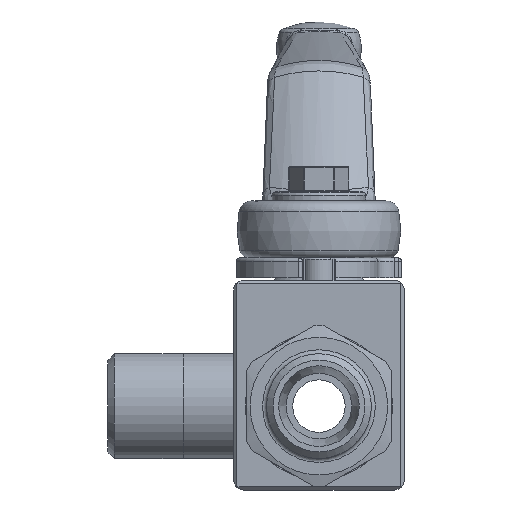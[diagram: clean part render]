
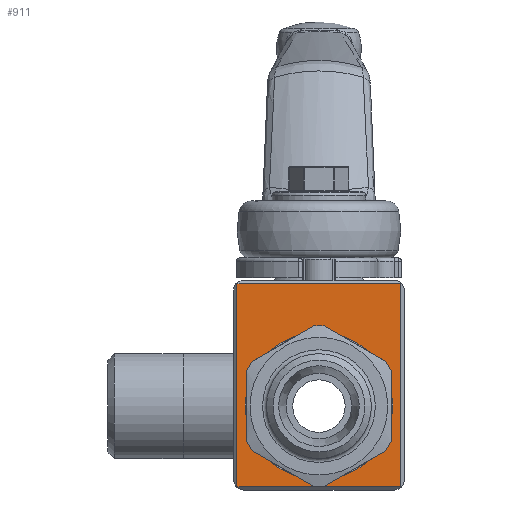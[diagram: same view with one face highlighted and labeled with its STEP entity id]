
A CAD part, front view. The second image highlights one B-rep face of the part: STEP entity #911.
In plain terms, the highlighted planar face has unit normal (0, -1, 0).
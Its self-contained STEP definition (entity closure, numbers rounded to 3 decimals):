
#911 = ADVANCED_FACE( '', ( #1953, #1954 ), #1955, .F. );
#1953 = FACE_BOUND( '', #3694, .T. );
#1954 = FACE_OUTER_BOUND( '', #3695, .T. );
#1955 = PLANE( '', #3696 );
#3694 = EDGE_LOOP( '', ( #6474 ) );
#3695 = EDGE_LOOP( '', ( #6475, #6476, #6477, #6478 ) );
#3696 = AXIS2_PLACEMENT_3D( '', #6479, #6480, #6481 );
#6474 = ORIENTED_EDGE( '', *, *, #9029, .T. );
#6475 = ORIENTED_EDGE( '', *, *, #9030, .T. );
#6476 = ORIENTED_EDGE( '', *, *, #9031, .T. );
#6477 = ORIENTED_EDGE( '', *, *, #8374, .T. );
#6478 = ORIENTED_EDGE( '', *, *, #9032, .T. );
#6479 = CARTESIAN_POINT( '', ( -13., -18.1, 19.2 ) );
#6480 = DIRECTION( '', ( 0., 1., 0. ) );
#6481 = DIRECTION( '', ( 0., 0., 1. ) );
#8374 = EDGE_CURVE( '', #9694, #9695, #9696, .T. );
#9029 = EDGE_CURVE( '', #10729, #10729, #10730, .T. );
#9030 = EDGE_CURVE( '', #10731, #10732, #10733, .T. );
#9031 = EDGE_CURVE( '', #10732, #9694, #10734, .T. );
#9032 = EDGE_CURVE( '', #9695, #10731, #10735, .T. );
#9694 = VERTEX_POINT( '', #11651 );
#9695 = VERTEX_POINT( '', #11652 );
#9696 = LINE( '', #11653, #11654 );
#10729 = VERTEX_POINT( '', #13598 );
#10730 = CIRCLE( '', #13599, 11.25 );
#10731 = VERTEX_POINT( '', #13600 );
#10732 = VERTEX_POINT( '', #13601 );
#10733 = LINE( '', #13602, #13603 );
#10734 = LINE( '', #13604, #13605 );
#10735 = LINE( '', #13606, #13607 );
#11651 = CARTESIAN_POINT( '', ( 12.5, -18.1, -12.3 ) );
#11652 = CARTESIAN_POINT( '', ( 12.5, -18.1, 18.7 ) );
#11653 = CARTESIAN_POINT( '', ( 12.5, -18.1, 19.2 ) );
#11654 = VECTOR( '', #14833, 1000. );
#13598 = CARTESIAN_POINT( '', ( 0., -18.1, -11.25 ) );
#13599 = AXIS2_PLACEMENT_3D( '', #15734, #15735, #15736 );
#13600 = CARTESIAN_POINT( '', ( -12.5, -18.1, 18.7 ) );
#13601 = CARTESIAN_POINT( '', ( -12.5, -18.1, -12.3 ) );
#13602 = CARTESIAN_POINT( '', ( -12.5, -18.1, 19.2 ) );
#13603 = VECTOR( '', #15737, 1000. );
#13604 = CARTESIAN_POINT( '', ( -13., -18.1, -12.3 ) );
#13605 = VECTOR( '', #15738, 1000. );
#13606 = CARTESIAN_POINT( '', ( -13., -18.1, 18.7 ) );
#13607 = VECTOR( '', #15739, 1000. );
#14833 = DIRECTION( '', ( 0., 0., 1. ) );
#15734 = CARTESIAN_POINT( '', ( 0., -18.1, 0. ) );
#15735 = DIRECTION( '', ( 0., 1., 0. ) );
#15736 = DIRECTION( '', ( 0., 0., -1. ) );
#15737 = DIRECTION( '', ( 0., 0., -1. ) );
#15738 = DIRECTION( '', ( 1., 0., 0. ) );
#15739 = DIRECTION( '', ( -1., 0., 0. ) );
